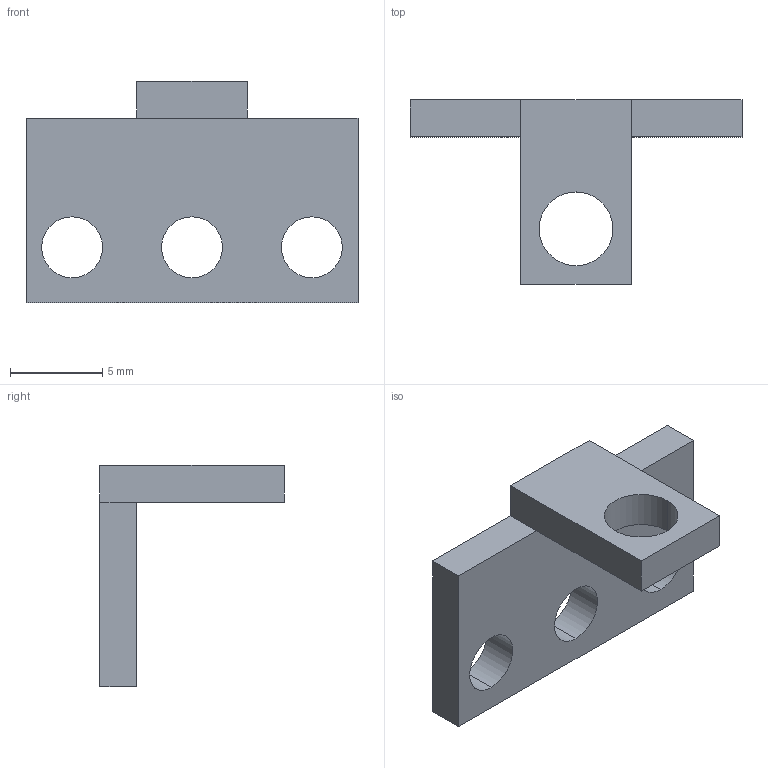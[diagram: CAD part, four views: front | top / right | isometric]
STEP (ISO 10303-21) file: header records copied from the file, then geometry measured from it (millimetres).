
FILE_DESCRIPTION (( 'STEP AP214' ), '1' );
FILE_NAME ('狟絮啣L倰.STEP', '2024-11-14T11:39:50', ( '' ), ( '' ), 'SwSTEP 2.0', 'SolidWorks 2021', '' );
FILE_SCHEMA (( 'AUTOMOTIVE_DESIGN' ));
Length unit declared in the file: millimetre
Products named in the file (1): 狟絮啣L倰
Bounding box: 18 x 10 x 12 mm (x, y, z)
Volume: 403.5 mm3; surface area: 642.9 mm2
Topology: 1 solids, 1 shells, 20 faces, 52 edges, 34 vertices
Faces by surface type: plane 12, cylinder 8
Entity records: 666 total; most frequent: DIRECTION 110, CARTESIAN_POINT 107, ORIENTED_EDGE 104, EDGE_CURVE 52, AXIS2_PLACEMENT_3D 37, VECTOR 36, LINE 36, VERTEX_POINT 34
